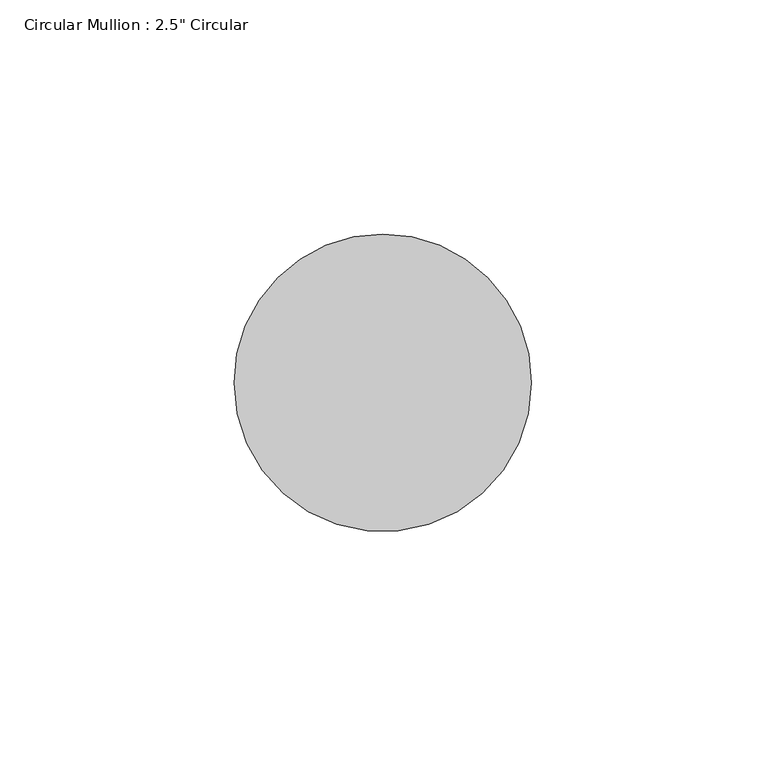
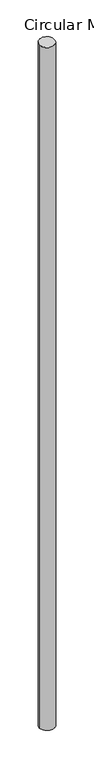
"""IFC4 building model written with IfcOpenShell, lengths in millimetres: member geometry."""

from ifc_helpers import new_model, si_unit, frame, origin, place, context, project, spatial, ellipse_curve, source, transform, mapped, element, save
from ifc_brep_helpers import plane_surface, cylinder_surface, advanced_brep


def member_6722c095(model_context):
    return source(origin(), model_context, "Body", "AdvancedBrep", [
        advanced_brep(
        [(-63.5, 0.0, -1.4685767), (0.0, 0.0, 0.0), (0.0, 0.0, -3035.9930915), (-63.5, 0.0, -3034.4568572)],
        [
            (0, 1, ellipse_curve(frame((-31.75, 0.0, -0.7342883), z_axis=(0.023081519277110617, 0.05842133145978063, -0.9980251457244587), x_axis=(0.3667227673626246, 0.9282071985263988, 0.06281567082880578)), 31.8128257, 31.75)),
            (1, 2),
            (2, 3, ellipse_curve(frame((-31.75, 0.0, -3035.2249743), z_axis=(0.02414040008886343, 0.061101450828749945, 0.9978395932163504), x_axis=(-0.36665458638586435, -0.9280346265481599, 0.06569738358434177)), 31.8187414, 31.75)),
            (3, 0),
            (1, 0, ellipse_curve(frame((-31.75, 0.0, -0.7342883), z_axis=(0.023081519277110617, 0.05842133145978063, -0.9980251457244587), x_axis=(0.3667227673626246, 0.9282071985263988, 0.06281567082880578)), 31.8128257, 31.75)),
            (3, 2, ellipse_curve(frame((-31.75, 0.0, -3035.2249743), z_axis=(0.02414040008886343, 0.061101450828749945, 0.9978395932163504), x_axis=(-0.36665458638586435, -0.9280346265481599, 0.06569738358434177)), 31.8187414, 31.75)),
        ],
        [
            cylinder_surface(frame((-31.75, 0.0, 0.0), z_axis=(0.0, 0.0, 1.0), x_axis=(1.0, 0.0, 0.0)), 31.75),
            plane_surface(frame((283.4773806, -111.9982798, 0.0), z_axis=(-0.023081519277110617, -0.05842133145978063, 0.9980251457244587), x_axis=(-0.36672276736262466, -0.9282071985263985, -0.06281567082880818))),
            plane_surface(frame((283.4773806, -111.9982798, -3035.9930915), z_axis=(-0.02414040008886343, -0.061101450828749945, -0.9978395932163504), x_axis=(-0.3666545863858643, -0.9280346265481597, 0.06569738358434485))),
        ],
        [
            (0, [[1, 2, 3, 4]]),
            (0, [[5, -4, 6, -2]]),
            (1, [[-1, -5]]),
            (2, [[-6, -3]]),
        ],
    ),
    ])


if __name__ == "__main__":
    model = new_model("IFC4")
    model_context = context("Model", 3, world=origin())
    ifc_project = project(units=[si_unit("LENGTHUNIT", "METRE", prefix="MILLI")], contexts=[model_context])
    site = spatial("IfcSite", under=ifc_project)
    building = spatial("IfcBuilding", under=site)
    placement = place(None, origin())
    member_shape = member_6722c095(model_context)
    element("IfcMember", 1, ObjectType="Circular Mullion : 2.5\" Circular", at=placement, inside=building, context=model_context, shape_type="MappedRepresentation", body=[
        mapped(member_shape, transform((0.0, 0.0, 0.0), x_axis=(1.0, 0.0, 0.0), y_axis=(0.0, 1.0, 0.0), z_axis=(0.0, 0.0, 1.0))),
    ])
    save(model, "model.ifc")
